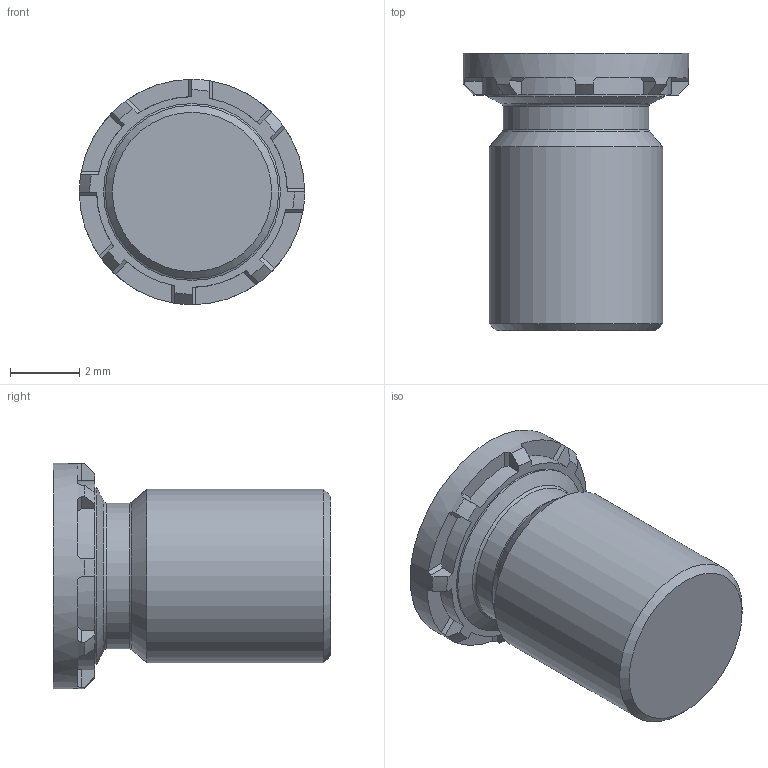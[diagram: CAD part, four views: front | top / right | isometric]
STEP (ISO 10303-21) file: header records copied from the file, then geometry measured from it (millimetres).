
FILE_DESCRIPTION(/* description */ (''),/* implementation_level */ '2;1');
FILE_NAME(/* name */ 'C:\Users\keval.kumar\Desktop\Fastit\Clinch Screw- FH Range\M5\Clinch Screw-FH Range_M5x8.stp',/* time_stamp */ '2024-03-13T12:39:30+05:00',/* author */ ('keval.kumar'),/* organization */ (''),/* preprocessor_version */ 'ST-DEVELOPER v18.1',/* originating_system */ 'Autodesk Inventor 2022',/* authorisation */ '');
FILE_SCHEMA (('AUTOMOTIVE_DESIGN { 1 0 10303 214 3 1 1 }'));
Length unit declared in the file: millimetre
Products named in the file (1): Clinch Screw-FH Range_M5x8
Bounding box: 6.5 x 8 x 6.5 mm (x, y, z)
Volume: 162.9 mm3; surface area: 198.8 mm2
Topology: 1 solids, 1 shells, 68 faces, 193 edges, 128 vertices
Faces by surface type: plane 43, cylinder 12, cone 11, torus 2
Full cylindrical faces by diameter (mm): 4.2 x1, 5 x1, 5.1 x1, 6.5 x1
Entity records: 2286 total; most frequent: DIRECTION 413, CARTESIAN_POINT 406, ORIENTED_EDGE 386, EDGE_CURVE 193, AXIS2_PLACEMENT_3D 159, VERTEX_POINT 128, LINE 95, VECTOR 95
